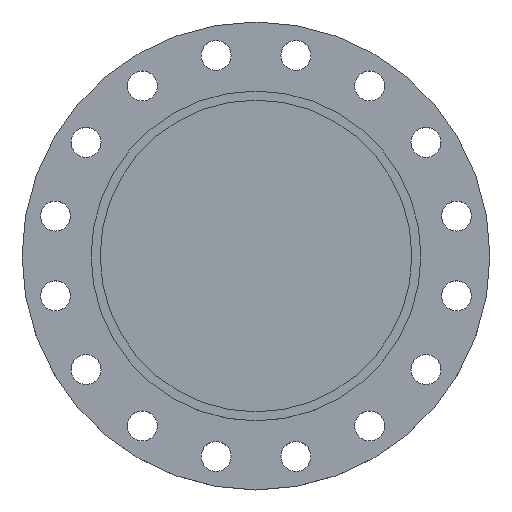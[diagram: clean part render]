
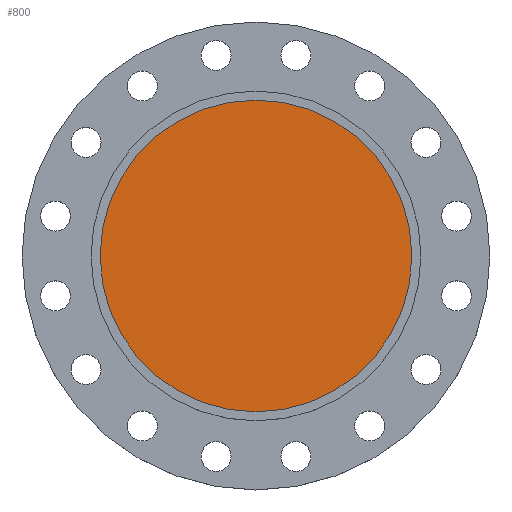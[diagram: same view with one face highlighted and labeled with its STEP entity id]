
A CAD part, top view. The second image highlights one B-rep face of the part: STEP entity #800.
In plain terms, the highlighted planar face has unit normal (0, 0, 1).
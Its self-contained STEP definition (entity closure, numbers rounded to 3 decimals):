
#157 = CARTESIAN_POINT ( 'NONE',  ( -171.5, 0., -5. ) ) ;
#180 = CARTESIAN_POINT ( 'NONE',  ( 171.5, 0., -5. ) ) ;
#181 = CIRCLE ( 'NONE', #709, 171.5 ) ;
#326 = VERTEX_POINT ( 'NONE', #180 ) ;
#336 = VERTEX_POINT ( 'NONE', #157 ) ;
#431 = EDGE_LOOP ( 'NONE', ( #675, #678 ) ) ;
#564 = AXIS2_PLACEMENT_3D ( 'NONE', #1458, #1457, #1456 ) ;
#623 = DIRECTION ( 'NONE',  ( -1., 0., 0. ) ) ;
#624 = DIRECTION ( 'NONE',  ( 0., 0., -1. ) ) ;
#627 = CARTESIAN_POINT ( 'NONE',  ( 0., 0., -5. ) ) ;
#675 = ORIENTED_EDGE ( 'NONE', *, *, #1396, .F. ) ;
#678 = ORIENTED_EDGE ( 'NONE', *, *, #1324, .F. ) ;
#709 = AXIS2_PLACEMENT_3D ( 'NONE', #627, #624, #623 ) ;
#800 = ADVANCED_FACE ( 'NONE', ( #1460 ), #1459, .T. ) ;
#861 = DIRECTION ( 'NONE',  ( -1., 0., 0. ) ) ;
#864 = DIRECTION ( 'NONE',  ( 0., 0., -1. ) ) ;
#866 = CARTESIAN_POINT ( 'NONE',  ( 0., 0., -5. ) ) ;
#1038 = CIRCLE ( 'NONE', #1101, 171.5 ) ;
#1101 = AXIS2_PLACEMENT_3D ( 'NONE', #866, #864, #861 ) ;
#1324 = EDGE_CURVE ( 'NONE', #326, #336, #1038, .T. ) ;
#1396 = EDGE_CURVE ( 'NONE', #336, #326, #181, .T. ) ;
#1456 = DIRECTION ( 'NONE',  ( 1., 0., 0. ) ) ;
#1457 = DIRECTION ( 'NONE',  ( 0., 0., 1. ) ) ;
#1458 = CARTESIAN_POINT ( 'NONE',  ( 171.5, 0., -5. ) ) ;
#1459 = PLANE ( 'NONE',  #564 ) ;
#1460 = FACE_OUTER_BOUND ( 'NONE', #431, .T. ) ;
